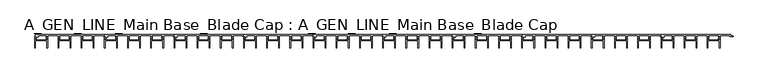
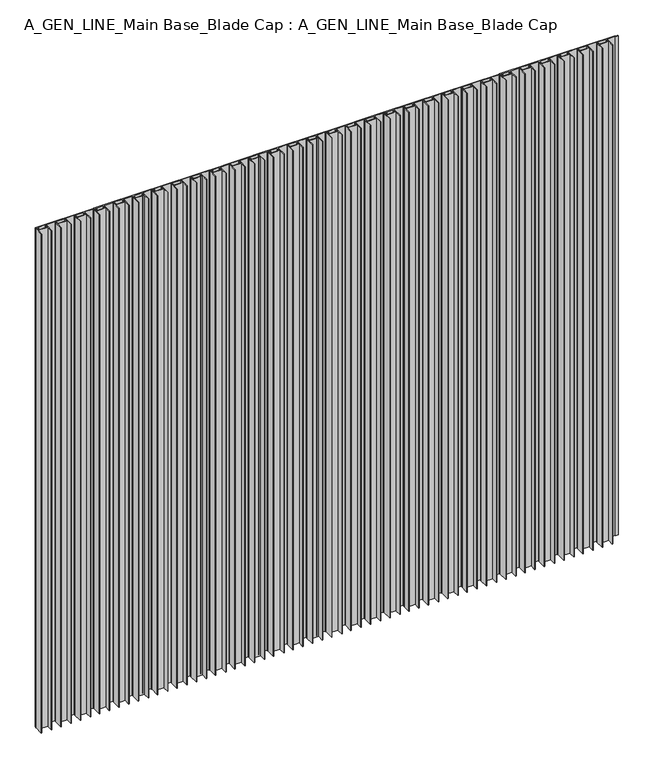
"""IFC4 building model written with IfcOpenShell, lengths in millimetres: proxy geometry, A_GEN_LINE_Main Base_Blade Cap : A_GEN_LINE_Main Base_Blade Cap."""

from ifc_helpers import new_model, si_unit, origin, origin_with_axes, place, context, project, spatial, polyline, outline, extrude, source, transform, mapped, element, save


def a_gen_line_main_base_blade_cap_a_gen_line_main_base_blade_9d8e08f2(model_context):
    return source(origin(), model_context, "Body", "SweptSolid", [
        extrude(outline(polyline([(1594.5994542, -32.0289818), (1594.5994542, -6.1), (1596.8241714, -6.1), (1596.8241714, -8.3419727), (1595.5177746, -8.7617834), (1595.5177746, -12.5079436), (1623.6811338, -12.5079436), (1623.6811338, -8.7374539), (1622.4504472, -8.3419727), (1622.4504472, -6.1), (1624.5994542, -6.1), (1624.5994542, -32.0289818), (1623.1994542, -32.0289818), (1623.1994542, -13.9079436), (1595.9994542, -13.9079436), (1595.9994542, -32.0289818), (1594.5994542, -32.0289818)])), origin_with_axes(), (0.0, 0.0, 1.0), 1500.0),
        extrude(outline(polyline([(1539.5989548, -32.0289818), (1539.5989548, -6.1), (1541.823672, -6.1), (1541.823672, -8.3419727), (1540.5172752, -8.7617834), (1540.5172752, -12.5079436), (1568.6806344, -12.5079436), (1568.6806344, -8.7374539), (1567.4499478, -8.3419727), (1567.4499478, -6.1), (1569.5989548, -6.1), (1569.5989548, -32.0289818), (1568.1989548, -32.0289818), (1568.1989548, -13.9079436), (1540.9989548, -13.9079436), (1540.9989548, -32.0289818), (1539.5989548, -32.0289818)])), origin_with_axes(), (0.0, 0.0, 1.0), 1500.0),
        extrude(outline(polyline([(1484.5984554, -32.0289818), (1484.5984554, -6.1), (1486.8231726, -6.1), (1486.8231726, -8.3419727), (1485.5167759, -8.7617834), (1485.5167759, -12.5079436), (1513.680135, -12.5079436), (1513.680135, -8.7374539), (1512.4494485, -8.3419727), (1512.4494485, -6.1), (1514.5984554, -6.1), (1514.5984554, -32.0289818), (1513.1984554, -32.0289818), (1513.1984554, -13.9079436), (1485.9984554, -13.9079436), (1485.9984554, -32.0289818), (1484.5984554, -32.0289818)])), origin_with_axes(), (0.0, 0.0, 1.0), 1500.0),
        extrude(outline(polyline([(1429.597956, -32.0289818), (1429.597956, -6.1), (1431.8226732, -6.1), (1431.8226732, -8.3419727), (1430.5162765, -8.7617834), (1430.5162765, -12.5079436), (1458.6796356, -12.5079436), (1458.6796356, -8.7374539), (1457.4489491, -8.3419727), (1457.4489491, -6.1), (1459.597956, -6.1), (1459.597956, -32.0289818), (1458.197956, -32.0289818), (1458.197956, -13.9079436), (1430.997956, -13.9079436), (1430.997956, -32.0289818), (1429.597956, -32.0289818)])), origin_with_axes(), (0.0, 0.0, 1.0), 1500.0),
        extrude(outline(polyline([(1374.5974566, -32.0289818), (1374.5974566, -6.1), (1376.8221738, -6.1), (1376.8221738, -8.3419727), (1375.5157771, -8.7617834), (1375.5157771, -12.5079436), (1403.6791362, -12.5079436), (1403.6791362, -8.7374539), (1402.4484497, -8.3419727), (1402.4484497, -6.1), (1404.5974566, -6.1), (1404.5974566, -32.0289818), (1403.1974566, -32.0289818), (1403.1974566, -13.9079436), (1375.9974566, -13.9079436), (1375.9974566, -32.0289818), (1374.5974566, -32.0289818)])), origin_with_axes(), (0.0, 0.0, 1.0), 1500.0),
        extrude(outline(polyline([(1319.5969572, -32.0289818), (1319.5969572, -6.1), (1321.8216744, -6.1), (1321.8216744, -8.3419727), (1320.5152777, -8.7617834), (1320.5152777, -12.5079436), (1348.6786368, -12.5079436), (1348.6786368, -8.7374539), (1347.4479503, -8.3419727), (1347.4479503, -6.1), (1349.5969572, -6.1), (1349.5969572, -32.0289818), (1348.1969572, -32.0289818), (1348.1969572, -13.9079436), (1320.9969572, -13.9079436), (1320.9969572, -32.0289818), (1319.5969572, -32.0289818)])), origin_with_axes(), (0.0, 0.0, 1.0), 1500.0),
        extrude(outline(polyline([(1264.5964579, -32.0289818), (1264.5964579, -6.1), (1266.821175, -6.1), (1266.821175, -8.3419727), (1265.5147783, -8.7617834), (1265.5147783, -12.5079436), (1293.6781374, -12.5079436), (1293.6781374, -8.7374539), (1292.4474509, -8.3419727), (1292.4474509, -6.1), (1294.5964579, -6.1), (1294.5964579, -32.0289818), (1293.1964579, -32.0289818), (1293.1964579, -13.9079436), (1265.9964579, -13.9079436), (1265.9964579, -32.0289818), (1264.5964579, -32.0289818)])), origin_with_axes(), (0.0, 0.0, 1.0), 1500.0),
        extrude(outline(polyline([(1209.5959585, -32.0289818), (1209.5959585, -6.1), (1211.8206756, -6.1), (1211.8206756, -8.3419727), (1210.5142789, -8.7617834), (1210.5142789, -12.5079436), (1238.677638, -12.5079436), (1238.677638, -8.7374539), (1237.4469515, -8.3419727), (1237.4469515, -6.1), (1239.5959585, -6.1), (1239.5959585, -32.0289818), (1238.1959585, -32.0289818), (1238.1959585, -13.9079436), (1210.9959585, -13.9079436), (1210.9959585, -32.0289818), (1209.5959585, -32.0289818)])), origin_with_axes(), (0.0, 0.0, 1.0), 1500.0),
        extrude(outline(polyline([(1154.5954591, -32.0289818), (1154.5954591, -6.1), (1156.8201762, -6.1), (1156.8201762, -8.3419727), (1155.5137795, -8.7617834), (1155.5137795, -12.5079436), (1183.6771386, -12.5079436), (1183.6771386, -8.7374539), (1182.4464521, -8.3419727), (1182.4464521, -6.1), (1184.5954591, -6.1), (1184.5954591, -32.0289818), (1183.1954591, -32.0289818), (1183.1954591, -13.9079436), (1155.9954591, -13.9079436), (1155.9954591, -32.0289818), (1154.5954591, -32.0289818)])), origin_with_axes(), (0.0, 0.0, 1.0), 1500.0),
        extrude(outline(polyline([(1485.0, 0.0), (1649.5761088, 0.0), (1649.5761088, -2.85), (1655.5761088, -2.85), (1655.5761088, -4.2), (1648.0577537, -4.2), (1648.0577537, -2.4), (1624.5881862, -2.4), (1624.5881862, -6.1021884), (1623.4732128, -6.1021884), (1621.884647, -8.4994005), (1623.1465809, -8.4994005), (1623.1465809, -10.4818695), (1620.9440548, -10.4818695), (1620.9773381, -5.5238337), (1623.0474159, -2.4), (1596.1309809, -2.4), (1598.2301021, -5.6343123), (1598.2301021, -10.4818695), (1596.027576, -10.4818695), (1596.027576, -8.4994005), (1597.2895099, -8.4994005), (1595.7009441, -6.1021884), (1594.5859707, -6.1021884), (1594.5859707, -2.4), (1569.5854713, -2.4), (1569.5854713, -6.1021884), (1568.4704978, -6.1021884), (1566.881932, -8.4994005), (1568.1438659, -8.4994005), (1568.1438659, -10.4818695), (1565.9413399, -10.4818695), (1565.9413399, -5.5740595), (1568.0447009, -2.4), (1541.1304815, -2.4), (1543.2296027, -5.6343123), (1543.2296027, -10.4818695), (1541.0270766, -10.4818695), (1541.0270766, -8.4994005), (1542.2890105, -8.4994005), (1540.7004447, -6.1021884), (1539.5854713, -6.1021884), (1539.5854713, -2.4), (1514.5849719, -2.4), (1514.5849719, -6.1021884), (1513.4699984, -6.1021884), (1511.8814326, -8.4994005), (1513.1433665, -8.4994005), (1513.1433665, -10.4818695), (1510.9408405, -10.4818695), (1510.9408405, -5.6343123), (1513.0399616, -2.4), (1492.2195527, -2.4), (1492.2195527, -6.1), (1488.2291033, -6.1), (1488.2291033, -10.4818695), (1486.0265772, -10.4818695), (1486.0265772, -8.4994005), (1487.2885111, -8.4994005), (1485.6999453, -6.1021884), (1484.6137598, -6.1021884), (1484.6137598, -4.9), (1491.0195527, -4.9), (1491.0195527, -2.7), (1485.0, -2.7), (1485.0, 0.0)])), origin_with_axes(), (0.0, 0.0, 1.0), 1500.0),
        extrude(outline(polyline([(1320.0, 0.0), (1484.5761088, 0.0), (1484.5761088, -2.85), (1490.5761088, -2.85), (1490.5761088, -4.2), (1483.0577537, -4.2), (1483.0577537, -2.4), (1459.5881862, -2.4), (1459.5881862, -6.1021884), (1458.4732128, -6.1021884), (1456.884647, -8.4994005), (1458.1465809, -8.4994005), (1458.1465809, -10.4818695), (1455.9440548, -10.4818695), (1455.9773381, -5.5238337), (1458.0474159, -2.4), (1431.1309809, -2.4), (1433.2301021, -5.6343123), (1433.2301021, -10.4818695), (1431.027576, -10.4818695), (1431.027576, -8.4994005), (1432.2895099, -8.4994005), (1430.7009441, -6.1021884), (1429.5859707, -6.1021884), (1429.5859707, -2.4), (1404.5854713, -2.4), (1404.5854713, -6.1021884), (1403.4704978, -6.1021884), (1401.881932, -8.4994005), (1403.1438659, -8.4994005), (1403.1438659, -10.4818695), (1400.9413399, -10.4818695), (1400.9413399, -5.5740595), (1403.0447009, -2.4), (1376.1304815, -2.4), (1378.2296027, -5.6343123), (1378.2296027, -10.4818695), (1376.0270766, -10.4818695), (1376.0270766, -8.4994005), (1377.2890105, -8.4994005), (1375.7004447, -6.1021884), (1374.5854713, -6.1021884), (1374.5854713, -2.4), (1349.5849719, -2.4), (1349.5849719, -6.1021884), (1348.4699984, -6.1021884), (1346.8814326, -8.4994005), (1348.1433665, -8.4994005), (1348.1433665, -10.4818695), (1345.9408405, -10.4818695), (1345.9408405, -5.6343123), (1348.0399616, -2.4), (1327.2195527, -2.4), (1327.2195527, -6.1), (1323.2291033, -6.1), (1323.2291033, -10.4818695), (1321.0265772, -10.4818695), (1321.0265772, -8.4994005), (1322.2885111, -8.4994005), (1320.6999453, -6.1021884), (1319.6137598, -6.1021884), (1319.6137598, -4.9), (1326.0195527, -4.9), (1326.0195527, -2.7), (1320.0, -2.7), (1320.0, 0.0)])), origin_with_axes(), (0.0, 0.0, 1.0), 1500.0),
        extrude(outline(polyline([(1155.0, 0.0), (1319.5761088, 0.0), (1319.5761088, -2.85), (1325.5761088, -2.85), (1325.5761088, -4.2), (1318.0577537, -4.2), (1318.0577537, -2.4), (1294.5881862, -2.4), (1294.5881862, -6.1021884), (1293.4732128, -6.1021884), (1291.884647, -8.4994005), (1293.1465809, -8.4994005), (1293.1465809, -10.4818695), (1290.9440548, -10.4818695), (1290.9773381, -5.5238337), (1293.0474159, -2.4), (1266.1309809, -2.4), (1268.2301021, -5.6343123), (1268.2301021, -10.4818695), (1266.027576, -10.4818695), (1266.027576, -8.4994005), (1267.2895099, -8.4994005), (1265.7009441, -6.1021884), (1264.5859707, -6.1021884), (1264.5859707, -2.4), (1239.5854713, -2.4), (1239.5854713, -6.1021884), (1238.4704978, -6.1021884), (1236.881932, -8.4994005), (1238.1438659, -8.4994005), (1238.1438659, -10.4818695), (1235.9413399, -10.4818695), (1235.9413399, -5.5740595), (1238.0447009, -2.4), (1211.1304815, -2.4), (1213.2296027, -5.6343123), (1213.2296027, -10.4818695), (1211.0270766, -10.4818695), (1211.0270766, -8.4994005), (1212.2890105, -8.4994005), (1210.7004447, -6.1021884), (1209.5854713, -6.1021884), (1209.5854713, -2.4), (1184.5849719, -2.4), (1184.5849719, -6.1021884), (1183.4699984, -6.1021884), (1181.8814326, -8.4994005), (1183.1433665, -8.4994005), (1183.1433665, -10.4818695), (1180.9408405, -10.4818695), (1180.9408405, -5.6343123), (1183.0399616, -2.4), (1162.2195527, -2.4), (1162.2195527, -6.1), (1158.2291033, -6.1), (1158.2291033, -10.4818695), (1156.0265772, -10.4818695), (1156.0265772, -8.4994005), (1157.2885111, -8.4994005), (1155.6999453, -6.1021884), (1154.6137598, -6.1021884), (1154.6137598, -4.9), (1161.0195527, -4.9), (1161.0195527, -2.7), (1155.0, -2.7), (1155.0, 0.0)])), origin_with_axes(), (0.0, 0.0, 1.0), 1500.0),
        extrude(outline(polyline([(1099.5949597, -32.0289818), (1099.5949597, -6.1), (1101.8196768, -6.1), (1101.8196768, -8.3419727), (1100.5132801, -8.7617834), (1100.5132801, -12.5079436), (1128.6766392, -12.5079436), (1128.6766392, -8.7374539), (1127.4459527, -8.3419727), (1127.4459527, -6.1), (1129.5949597, -6.1), (1129.5949597, -32.0289818), (1128.1949597, -32.0289818), (1128.1949597, -13.9079436), (1100.9949597, -13.9079436), (1100.9949597, -32.0289818), (1099.5949597, -32.0289818)])), origin_with_axes(), (0.0, 0.0, 1.0), 1500.0),
        extrude(outline(polyline([(1044.5944603, -32.0289818), (1044.5944603, -6.1), (1046.8191775, -6.1), (1046.8191775, -8.3419727), (1045.5127807, -8.7617834), (1045.5127807, -12.5079436), (1073.6761399, -12.5079436), (1073.6761399, -8.7374539), (1072.4454533, -8.3419727), (1072.4454533, -6.1), (1074.5944603, -6.1), (1074.5944603, -32.0289818), (1073.1944603, -32.0289818), (1073.1944603, -13.9079436), (1045.9944603, -13.9079436), (1045.9944603, -32.0289818), (1044.5944603, -32.0289818)])), origin_with_axes(), (0.0, 0.0, 1.0), 1500.0),
        extrude(outline(polyline([(989.5939609, -32.0289818), (989.5939609, -6.1), (991.8186781, -6.1), (991.8186781, -8.3419727), (990.5122813, -8.7617834), (990.5122813, -12.5079436), (1018.6756405, -12.5079436), (1018.6756405, -8.7374539), (1017.4449539, -8.3419727), (1017.4449539, -6.1), (1019.5939609, -6.1), (1019.5939609, -32.0289818), (1018.1939609, -32.0289818), (1018.1939609, -13.9079436), (990.9939609, -13.9079436), (990.9939609, -32.0289818), (989.5939609, -32.0289818)])), origin_with_axes(), (0.0, 0.0, 1.0), 1500.0),
        extrude(outline(polyline([(934.5934615, -32.0289818), (934.5934615, -6.1), (936.8181787, -6.1), (936.8181787, -8.3419727), (935.5117819, -8.7617834), (935.5117819, -12.5079436), (963.6751411, -12.5079436), (963.6751411, -8.7374539), (962.4444546, -8.3419727), (962.4444546, -6.1), (964.5934615, -6.1), (964.5934615, -32.0289818), (963.1934615, -32.0289818), (963.1934615, -13.9079436), (935.9934615, -13.9079436), (935.9934615, -32.0289818), (934.5934615, -32.0289818)])), origin_with_axes(), (0.0, 0.0, 1.0), 1500.0),
        extrude(outline(polyline([(879.5929621, -32.0289818), (879.5929621, -6.1), (881.8176793, -6.1), (881.8176793, -8.3419727), (880.5112826, -8.7617834), (880.5112826, -12.5079436), (908.6746417, -12.5079436), (908.6746417, -8.7374539), (907.4439552, -8.3419727), (907.4439552, -6.1), (909.5929621, -6.1), (909.5929621, -32.0289818), (908.1929621, -32.0289818), (908.1929621, -13.9079436), (880.9929621, -13.9079436), (880.9929621, -32.0289818), (879.5929621, -32.0289818)])), origin_with_axes(), (0.0, 0.0, 1.0), 1500.0),
        extrude(outline(polyline([(824.5924627, -32.0289818), (824.5924627, -6.1), (826.8171799, -6.1), (826.8171799, -8.3419727), (825.5107832, -8.7617834), (825.5107832, -12.5079436), (853.6741423, -12.5079436), (853.6741423, -8.7374539), (852.4434558, -8.3419727), (852.4434558, -6.1), (854.5924627, -6.1), (854.5924627, -32.0289818), (853.1924627, -32.0289818), (853.1924627, -13.9079436), (825.9924627, -13.9079436), (825.9924627, -32.0289818), (824.5924627, -32.0289818)])), origin_with_axes(), (0.0, 0.0, 1.0), 1500.0),
        extrude(outline(polyline([(769.5919633, -32.0289818), (769.5919633, -6.1), (771.8166805, -6.1), (771.8166805, -8.3419727), (770.5102838, -8.7617834), (770.5102838, -12.5079436), (798.6736429, -12.5079436), (798.6736429, -8.7374539), (797.4429564, -8.3419727), (797.4429564, -6.1), (799.5919633, -6.1), (799.5919633, -32.0289818), (798.1919633, -32.0289818), (798.1919633, -13.9079436), (770.9919633, -13.9079436), (770.9919633, -32.0289818), (769.5919633, -32.0289818)])), origin_with_axes(), (0.0, 0.0, 1.0), 1500.0),
        extrude(outline(polyline([(714.5914639, -32.0289818), (714.5914639, -6.1), (716.8161811, -6.1), (716.8161811, -8.3419727), (715.5097844, -8.7617834), (715.5097844, -12.5079436), (743.6731435, -12.5079436), (743.6731435, -8.7374539), (742.442457, -8.3419727), (742.442457, -6.1), (744.5914639, -6.1), (744.5914639, -32.0289818), (743.1914639, -32.0289818), (743.1914639, -13.9079436), (715.9914639, -13.9079436), (715.9914639, -32.0289818), (714.5914639, -32.0289818)])), origin_with_axes(), (0.0, 0.0, 1.0), 1500.0),
        extrude(outline(polyline([(659.5909646, -32.0289818), (659.5909646, -6.1), (661.8156817, -6.1), (661.8156817, -8.3419727), (660.509285, -8.7617834), (660.509285, -12.5079436), (688.6726441, -12.5079436), (688.6726441, -8.7374539), (687.4419576, -8.3419727), (687.4419576, -6.1), (689.5909646, -6.1), (689.5909646, -32.0289818), (688.1909646, -32.0289818), (688.1909646, -13.9079436), (660.9909646, -13.9079436), (660.9909646, -32.0289818), (659.5909646, -32.0289818)])), origin_with_axes(), (0.0, 0.0, 1.0), 1500.0),
        extrude(outline(polyline([(604.5904652, -32.0289818), (604.5904652, -6.1), (606.8151823, -6.1), (606.8151823, -8.3419727), (605.5087856, -8.7617834), (605.5087856, -12.5079436), (633.6721447, -12.5079436), (633.6721447, -8.7374539), (632.4414582, -8.3419727), (632.4414582, -6.1), (634.5904652, -6.1), (634.5904652, -32.0289818), (633.1904652, -32.0289818), (633.1904652, -13.9079436), (605.9904652, -13.9079436), (605.9904652, -32.0289818), (604.5904652, -32.0289818)])), origin_with_axes(), (0.0, 0.0, 1.0), 1500.0),
        extrude(outline(polyline([(549.5899658, -32.0289818), (549.5899658, -6.1), (551.8146829, -6.1), (551.8146829, -8.3419727), (550.5082862, -8.7617834), (550.5082862, -12.5079436), (578.6716453, -12.5079436), (578.6716453, -8.7374539), (577.4409588, -8.3419727), (577.4409588, -6.1), (579.5899658, -6.1), (579.5899658, -32.0289818), (578.1899658, -32.0289818), (578.1899658, -13.9079436), (550.9899658, -13.9079436), (550.9899658, -32.0289818), (549.5899658, -32.0289818)])), origin_with_axes(), (0.0, 0.0, 1.0), 1500.0),
        extrude(outline(polyline([(494.5894664, -32.0289818), (494.5894664, -6.1), (496.8141835, -6.1), (496.8141835, -8.3419727), (495.5077868, -8.7617834), (495.5077868, -12.5079436), (523.671146, -12.5079436), (523.671146, -8.7374539), (522.4404594, -8.3419727), (522.4404594, -6.1), (524.5894664, -6.1), (524.5894664, -32.0289818), (523.1894664, -32.0289818), (523.1894664, -13.9079436), (495.9894664, -13.9079436), (495.9894664, -32.0289818), (494.5894664, -32.0289818)])), origin_with_axes(), (0.0, 0.0, 1.0), 1500.0),
        extrude(outline(polyline([(439.588967, -32.0289818), (439.588967, -6.1), (441.8136842, -6.1), (441.8136842, -8.3419727), (440.5072874, -8.7617834), (440.5072874, -12.5079436), (468.6706466, -12.5079436), (468.6706466, -8.7374539), (467.43996, -8.3419727), (467.43996, -6.1), (469.588967, -6.1), (469.588967, -32.0289818), (468.188967, -32.0289818), (468.188967, -13.9079436), (440.988967, -13.9079436), (440.988967, -32.0289818), (439.588967, -32.0289818)])), origin_with_axes(), (0.0, 0.0, 1.0), 1500.0),
        extrude(outline(polyline([(384.5884676, -32.0289818), (384.5884676, -6.1), (386.8131848, -6.1), (386.8131848, -8.3419727), (385.506788, -8.7617834), (385.506788, -12.5079436), (413.6701472, -12.5079436), (413.6701472, -8.7374539), (412.4394606, -8.3419727), (412.4394606, -6.1), (414.5884676, -6.1), (414.5884676, -32.0289818), (413.1884676, -32.0289818), (413.1884676, -13.9079436), (385.9884676, -13.9079436), (385.9884676, -32.0289818), (384.5884676, -32.0289818)])), origin_with_axes(), (0.0, 0.0, 1.0), 1500.0),
        extrude(outline(polyline([(329.5879682, -32.0289818), (329.5879682, -6.1), (331.8126854, -6.1), (331.8126854, -8.3419727), (330.5062887, -8.7617834), (330.5062887, -12.5079436), (358.6696478, -12.5079436), (358.6696478, -8.7374539), (357.4389613, -8.3419727), (357.4389613, -6.1), (359.5879682, -6.1), (359.5879682, -32.0289818), (358.1879682, -32.0289818), (358.1879682, -13.9079436), (330.9879682, -13.9079436), (330.9879682, -32.0289818), (329.5879682, -32.0289818)])), origin_with_axes(), (0.0, 0.0, 1.0), 1500.0),
        extrude(outline(polyline([(274.5874688, -32.0289818), (274.5874688, -6.1), (276.812186, -6.1), (276.812186, -8.3419727), (275.5057893, -8.7617834), (275.5057893, -12.5079436), (303.6691484, -12.5079436), (303.6691484, -8.7374539), (302.4384619, -8.3419727), (302.4384619, -6.1), (304.5874688, -6.1), (304.5874688, -32.0289818), (303.1874688, -32.0289818), (303.1874688, -13.9079436), (275.9874688, -13.9079436), (275.9874688, -32.0289818), (274.5874688, -32.0289818)])), origin_with_axes(), (0.0, 0.0, 1.0), 1500.0),
        extrude(outline(polyline([(219.5869694, -32.0289818), (219.5869694, -6.1), (221.8116866, -6.1), (221.8116866, -8.3419727), (220.5052899, -8.7617834), (220.5052899, -12.5079436), (248.668649, -12.5079436), (248.668649, -8.7374539), (247.4379625, -8.3419727), (247.4379625, -6.1), (249.5869694, -6.1), (249.5869694, -32.0289818), (248.1869694, -32.0289818), (248.1869694, -13.9079436), (220.9869694, -13.9079436), (220.9869694, -32.0289818), (219.5869694, -32.0289818)])), origin_with_axes(), (0.0, 0.0, 1.0), 1500.0),
        extrude(outline(polyline([(164.58647, -32.0289818), (164.58647, -6.1), (166.8111872, -6.1), (166.8111872, -8.3419727), (165.5047905, -8.7617834), (165.5047905, -12.5079436), (193.6681496, -12.5079436), (193.6681496, -8.7374539), (192.4374631, -8.3419727), (192.4374631, -6.1), (194.58647, -6.1), (194.58647, -32.0289818), (193.18647, -32.0289818), (193.18647, -13.9079436), (165.98647, -13.9079436), (165.98647, -32.0289818), (164.58647, -32.0289818)])), origin_with_axes(), (0.0, 0.0, 1.0), 1500.0),
        extrude(outline(polyline([(109.5859707, -32.0289818), (109.5859707, -6.1), (111.8106878, -6.1), (111.8106878, -8.3419727), (110.5042911, -8.7617834), (110.5042911, -12.5079436), (138.6676502, -12.5079436), (138.6676502, -8.7374539), (137.4369637, -8.3419727), (137.4369637, -6.1), (139.5859707, -6.1), (139.5859707, -32.0289818), (138.1859707, -32.0289818), (138.1859707, -13.9079436), (110.9859707, -13.9079436), (110.9859707, -32.0289818), (109.5859707, -32.0289818)])), origin_with_axes(), (0.0, 0.0, 1.0), 1500.0),
        extrude(outline(polyline([(54.5854713, -32.0289818), (54.5854713, -6.1), (56.8101884, -6.1), (56.8101884, -8.3419727), (55.5037917, -8.7617834), (55.5037917, -12.5079436), (83.6671508, -12.5079436), (83.6671508, -8.7374539), (82.4364643, -8.3419727), (82.4364643, -6.1), (84.5854713, -6.1), (84.5854713, -32.0289818), (83.1854713, -32.0289818), (83.1854713, -13.9079436), (55.9854713, -13.9079436), (55.9854713, -32.0289818), (54.5854713, -32.0289818)])), origin_with_axes(), (0.0, 0.0, 1.0), 1500.0),
        extrude(outline(polyline([(-0.4150281, -32.0289818), (-0.4150281, -6.1), (1.809689, -6.1), (1.809689, -8.3419727), (0.5032923, -8.7617834), (0.5032923, -12.5079436), (28.6666514, -12.5079436), (28.6666514, -8.7374539), (27.4359649, -8.3419727), (27.4359649, -6.1), (29.5849719, -6.1), (29.5849719, -32.0289818), (28.1849719, -32.0289818), (28.1849719, -13.9079436), (0.9849719, -13.9079436), (0.9849719, -32.0289818), (-0.4150281, -32.0289818)])), origin_with_axes(), (0.0, 0.0, 1.0), 1500.0),
        extrude(outline(polyline([(990.0, 0.0), (1154.5761088, 0.0), (1154.5761088, -2.85), (1160.5761088, -2.85), (1160.5761088, -4.2), (1153.0577537, -4.2), (1153.0577537, -2.4), (1129.5881862, -2.4), (1129.5881862, -6.1021884), (1128.4732128, -6.1021884), (1126.884647, -8.4994005), (1128.1465809, -8.4994005), (1128.1465809, -10.4818695), (1125.9440548, -10.4818695), (1125.9773381, -5.5238337), (1128.0474159, -2.4), (1101.1309809, -2.4), (1103.2301021, -5.6343123), (1103.2301021, -10.4818695), (1101.027576, -10.4818695), (1101.027576, -8.4994005), (1102.2895099, -8.4994005), (1100.7009441, -6.1021884), (1099.5859707, -6.1021884), (1099.5859707, -2.4), (1074.5854713, -2.4), (1074.5854713, -6.1021884), (1073.4704978, -6.1021884), (1071.881932, -8.4994005), (1073.1438659, -8.4994005), (1073.1438659, -10.4818695), (1070.9413399, -10.4818695), (1070.9413399, -5.5740595), (1073.0447009, -2.4), (1046.1304815, -2.4), (1048.2296027, -5.6343123), (1048.2296027, -10.4818695), (1046.0270766, -10.4818695), (1046.0270766, -8.4994005), (1047.2890105, -8.4994005), (1045.7004447, -6.1021884), (1044.5854713, -6.1021884), (1044.5854713, -2.4), (1019.5849719, -2.4), (1019.5849719, -6.1021884), (1018.4699984, -6.1021884), (1016.8814326, -8.4994005), (1018.1433665, -8.4994005), (1018.1433665, -10.4818695), (1015.9408405, -10.4818695), (1015.9408405, -5.6343123), (1018.0399616, -2.4), (997.2195527, -2.4), (997.2195527, -6.1), (993.2291033, -6.1), (993.2291033, -10.4818695), (991.0265772, -10.4818695), (991.0265772, -8.4994005), (992.2885111, -8.4994005), (990.6999453, -6.1021884), (989.6137598, -6.1021884), (989.6137598, -4.9), (996.0195527, -4.9), (996.0195527, -2.7), (990.0, -2.7), (990.0, 0.0)])), origin_with_axes(), (0.0, 0.0, 1.0), 1500.0),
        extrude(outline(polyline([(825.0, 0.0), (989.5761088, 0.0), (989.5761088, -2.85), (995.5761088, -2.85), (995.5761088, -4.2), (988.0577537, -4.2), (988.0577537, -2.4), (964.5881862, -2.4), (964.5881862, -6.1021884), (963.4732128, -6.1021884), (961.884647, -8.4994005), (963.1465809, -8.4994005), (963.1465809, -10.4818695), (960.9440548, -10.4818695), (960.9773381, -5.5238337), (963.0474159, -2.4), (936.1309809, -2.4), (938.2301021, -5.6343123), (938.2301021, -10.4818695), (936.027576, -10.4818695), (936.027576, -8.4994005), (937.2895099, -8.4994005), (935.7009441, -6.1021884), (934.5859707, -6.1021884), (934.5859707, -2.4), (909.5854713, -2.4), (909.5854713, -6.1021884), (908.4704978, -6.1021884), (906.881932, -8.4994005), (908.1438659, -8.4994005), (908.1438659, -10.4818695), (905.9413399, -10.4818695), (905.9413399, -5.5740595), (908.0447009, -2.4), (881.1304815, -2.4), (883.2296027, -5.6343123), (883.2296027, -10.4818695), (881.0270766, -10.4818695), (881.0270766, -8.4994005), (882.2890105, -8.4994005), (880.7004447, -6.1021884), (879.5854713, -6.1021884), (879.5854713, -2.4), (854.5849719, -2.4), (854.5849719, -6.1021884), (853.4699984, -6.1021884), (851.8814326, -8.4994005), (853.1433665, -8.4994005), (853.1433665, -10.4818695), (850.9408405, -10.4818695), (850.9408405, -5.6343123), (853.0399616, -2.4), (832.2195527, -2.4), (832.2195527, -6.1), (828.2291033, -6.1), (828.2291033, -10.4818695), (826.0265772, -10.4818695), (826.0265772, -8.4994005), (827.2885111, -8.4994005), (825.6999453, -6.1021884), (824.6137598, -6.1021884), (824.6137598, -4.9), (831.0195527, -4.9), (831.0195527, -2.7), (825.0, -2.7), (825.0, 0.0)])), origin_with_axes(), (0.0, 0.0, 1.0), 1500.0),
        extrude(outline(polyline([(660.0, 0.0), (824.5761088, 0.0), (824.5761088, -2.85), (830.5761088, -2.85), (830.5761088, -4.2), (823.0577537, -4.2), (823.0577537, -2.4), (799.5881862, -2.4), (799.5881862, -6.1021884), (798.4732128, -6.1021884), (796.884647, -8.4994005), (798.1465809, -8.4994005), (798.1465809, -10.4818695), (795.9440548, -10.4818695), (795.9773381, -5.5238337), (798.0474159, -2.4), (771.1309809, -2.4), (773.2301021, -5.6343123), (773.2301021, -10.4818695), (771.027576, -10.4818695), (771.027576, -8.4994005), (772.2895099, -8.4994005), (770.7009441, -6.1021884), (769.5859707, -6.1021884), (769.5859707, -2.4), (744.5854713, -2.4), (744.5854713, -6.1021884), (743.4704978, -6.1021884), (741.881932, -8.4994005), (743.1438659, -8.4994005), (743.1438659, -10.4818695), (740.9413399, -10.4818695), (740.9413399, -5.5740595), (743.0447009, -2.4), (716.1304815, -2.4), (718.2296027, -5.6343123), (718.2296027, -10.4818695), (716.0270766, -10.4818695), (716.0270766, -8.4994005), (717.2890105, -8.4994005), (715.7004447, -6.1021884), (714.5854713, -6.1021884), (714.5854713, -2.4), (689.5849719, -2.4), (689.5849719, -6.1021884), (688.4699984, -6.1021884), (686.8814326, -8.4994005), (688.1433665, -8.4994005), (688.1433665, -10.4818695), (685.9408405, -10.4818695), (685.9408405, -5.6343123), (688.0399616, -2.4), (667.2195527, -2.4), (667.2195527, -6.1), (663.2291033, -6.1), (663.2291033, -10.4818695), (661.0265772, -10.4818695), (661.0265772, -8.4994005), (662.2885111, -8.4994005), (660.6999453, -6.1021884), (659.6137598, -6.1021884), (659.6137598, -4.9), (666.0195527, -4.9), (666.0195527, -2.7), (660.0, -2.7), (660.0, 0.0)])), origin_with_axes(), (0.0, 0.0, 1.0), 1500.0),
        extrude(outline(polyline([(495.0, 0.0), (659.5761088, 0.0), (659.5761088, -2.85), (665.5761088, -2.85), (665.5761088, -4.2), (658.0577537, -4.2), (658.0577537, -2.4), (634.5881862, -2.4), (634.5881862, -6.1021884), (633.4732128, -6.1021884), (631.884647, -8.4994005), (633.1465809, -8.4994005), (633.1465809, -10.4818695), (630.9440548, -10.4818695), (630.9773381, -5.5238337), (633.0474159, -2.4), (606.1309809, -2.4), (608.2301021, -5.6343123), (608.2301021, -10.4818695), (606.027576, -10.4818695), (606.027576, -8.4994005), (607.2895099, -8.4994005), (605.7009441, -6.1021884), (604.5859707, -6.1021884), (604.5859707, -2.4), (579.5854713, -2.4), (579.5854713, -6.1021884), (578.4704978, -6.1021884), (576.881932, -8.4994005), (578.1438659, -8.4994005), (578.1438659, -10.4818695), (575.9413399, -10.4818695), (575.9413399, -5.5740595), (578.0447009, -2.4), (551.1304815, -2.4), (553.2296027, -5.6343123), (553.2296027, -10.4818695), (551.0270766, -10.4818695), (551.0270766, -8.4994005), (552.2890105, -8.4994005), (550.7004447, -6.1021884), (549.5854713, -6.1021884), (549.5854713, -2.4), (524.5849719, -2.4), (524.5849719, -6.1021884), (523.4699984, -6.1021884), (521.8814326, -8.4994005), (523.1433665, -8.4994005), (523.1433665, -10.4818695), (520.9408405, -10.4818695), (520.9408405, -5.6343123), (523.0399616, -2.4), (502.2195527, -2.4), (502.2195527, -6.1), (498.2291033, -6.1), (498.2291033, -10.4818695), (496.0265772, -10.4818695), (496.0265772, -8.4994005), (497.2885111, -8.4994005), (495.6999453, -6.1021884), (494.6137598, -6.1021884), (494.6137598, -4.9), (501.0195527, -4.9), (501.0195527, -2.7), (495.0, -2.7), (495.0, 0.0)])), origin_with_axes(), (0.0, 0.0, 1.0), 1500.0),
        extrude(outline(polyline([(330.0, 0.0), (494.5761088, 0.0), (494.5761088, -2.85), (500.5761088, -2.85), (500.5761088, -4.2), (493.0577537, -4.2), (493.0577537, -2.4), (469.5881862, -2.4), (469.5881862, -6.1021884), (468.4732128, -6.1021884), (466.884647, -8.4994005), (468.1465809, -8.4994005), (468.1465809, -10.4818695), (465.9440548, -10.4818695), (465.9773381, -5.5238337), (468.0474159, -2.4), (441.1309809, -2.4), (443.2301021, -5.6343123), (443.2301021, -10.4818695), (441.027576, -10.4818695), (441.027576, -8.4994005), (442.2895099, -8.4994005), (440.7009441, -6.1021884), (439.5859707, -6.1021884), (439.5859707, -2.4), (414.5854713, -2.4), (414.5854713, -6.1021884), (413.4704978, -6.1021884), (411.881932, -8.4994005), (413.1438659, -8.4994005), (413.1438659, -10.4818695), (410.9413399, -10.4818695), (410.9413399, -5.5740595), (413.0447009, -2.4), (386.1304815, -2.4), (388.2296027, -5.6343123), (388.2296027, -10.4818695), (386.0270766, -10.4818695), (386.0270766, -8.4994005), (387.2890105, -8.4994005), (385.7004447, -6.1021884), (384.5854713, -6.1021884), (384.5854713, -2.4), (359.5849719, -2.4), (359.5849719, -6.1021884), (358.4699984, -6.1021884), (356.8814326, -8.4994005), (358.1433665, -8.4994005), (358.1433665, -10.4818695), (355.9408405, -10.4818695), (355.9408405, -5.6343123), (358.0399616, -2.4), (337.2195527, -2.4), (337.2195527, -6.1), (333.2291033, -6.1), (333.2291033, -10.4818695), (331.0265772, -10.4818695), (331.0265772, -8.4994005), (332.2885111, -8.4994005), (330.6999453, -6.1021884), (329.6137598, -6.1021884), (329.6137598, -4.9), (336.0195527, -4.9), (336.0195527, -2.7), (330.0, -2.7), (330.0, 0.0)])), origin_with_axes(), (0.0, 0.0, 1.0), 1500.0),
        extrude(outline(polyline([(165.0, 0.0), (329.5761088, 0.0), (329.5761088, -2.85), (335.5761088, -2.85), (335.5761088, -4.2), (328.0577537, -4.2), (328.0577537, -2.4), (304.5881862, -2.4), (304.5881862, -6.1021884), (303.4732128, -6.1021884), (301.884647, -8.4994005), (303.1465809, -8.4994005), (303.1465809, -10.4818695), (300.9440548, -10.4818695), (300.9773381, -5.5238337), (303.0474159, -2.4), (276.1309809, -2.4), (278.2301021, -5.6343123), (278.2301021, -10.4818695), (276.027576, -10.4818695), (276.027576, -8.4994005), (277.2895099, -8.4994005), (275.7009441, -6.1021884), (274.5859707, -6.1021884), (274.5859707, -2.4), (249.5854713, -2.4), (249.5854713, -6.1021884), (248.4704978, -6.1021884), (246.881932, -8.4994005), (248.1438659, -8.4994005), (248.1438659, -10.4818695), (245.9413399, -10.4818695), (245.9413399, -5.5740595), (248.0447009, -2.4), (221.1304815, -2.4), (223.2296027, -5.6343123), (223.2296027, -10.4818695), (221.0270766, -10.4818695), (221.0270766, -8.4994005), (222.2890105, -8.4994005), (220.7004447, -6.1021884), (219.5854713, -6.1021884), (219.5854713, -2.4), (194.5849719, -2.4), (194.5849719, -6.1021884), (193.4699984, -6.1021884), (191.8814326, -8.4994005), (193.1433665, -8.4994005), (193.1433665, -10.4818695), (190.9408405, -10.4818695), (190.9408405, -5.6343123), (193.0399616, -2.4), (172.2195527, -2.4), (172.2195527, -6.1), (168.2291033, -6.1), (168.2291033, -10.4818695), (166.0265772, -10.4818695), (166.0265772, -8.4994005), (167.2885111, -8.4994005), (165.6999453, -6.1021884), (164.6137598, -6.1021884), (164.6137598, -4.9), (171.0195527, -4.9), (171.0195527, -2.7), (165.0, -2.7), (165.0, 0.0)])), origin_with_axes(), (0.0, 0.0, 1.0), 1500.0),
        extrude(outline(polyline([(0.0, 0.0), (164.5761088, 0.0), (164.5761088, -2.85), (170.5761088, -2.85), (170.5761088, -4.2), (163.0577537, -4.2), (163.0577537, -2.4), (139.5881862, -2.4), (139.5881862, -6.1021884), (138.4732128, -6.1021884), (136.884647, -8.4994005), (138.1465809, -8.4994005), (138.1465809, -10.4818695), (135.9440548, -10.4818695), (135.9773381, -5.5238337), (138.0474159, -2.4), (111.1309809, -2.4), (113.2301021, -5.6343123), (113.2301021, -10.4818695), (111.027576, -10.4818695), (111.027576, -8.4994005), (112.2895099, -8.4994005), (110.7009441, -6.1021884), (109.5859707, -6.1021884), (109.5859707, -2.4), (84.5854713, -2.4), (84.5854713, -6.1021884), (83.4704978, -6.1021884), (81.881932, -8.4994005), (83.1438659, -8.4994005), (83.1438659, -10.4818695), (80.9413399, -10.4818695), (80.9413399, -5.5740595), (83.0447009, -2.4), (56.1304815, -2.4), (58.2296027, -5.6343123), (58.2296027, -10.4818695), (56.0270766, -10.4818695), (56.0270766, -8.4994005), (57.2890105, -8.4994005), (55.7004447, -6.1021884), (54.5854713, -6.1021884), (54.5854713, -2.4), (29.5849719, -2.4), (29.5849719, -6.1021884), (28.4699984, -6.1021884), (26.8814326, -8.4994005), (28.1433665, -8.4994005), (28.1433665, -10.4818695), (25.9408405, -10.4818695), (25.9408405, -5.6343123), (28.0399616, -2.4), (7.2195527, -2.4), (7.2195527, -6.1), (3.2291033, -6.1), (3.2291033, -10.4818695), (1.0265772, -10.4818695), (1.0265772, -8.4994005), (2.2885111, -8.4994005), (0.6999453, -6.1021884), (-0.3862402, -6.1021884), (-0.3862402, -4.9), (6.0195527, -4.9), (6.0195527, -2.7), (0.0, -2.7), (0.0, 0.0)])), origin_with_axes(), (0.0, 0.0, 1.0), 1500.0),
    ])


if __name__ == "__main__":
    model = new_model("IFC4")
    model_context = context("Model", 3, world=origin())
    ifc_project = project(units=[si_unit("LENGTHUNIT", "METRE", prefix="MILLI")], contexts=[model_context])
    site = spatial("IfcSite", under=ifc_project)
    building = spatial("IfcBuilding", under=site)
    placement = place(None, origin())
    a_gen_line_main_base_blade_cap_a_gen_line_main_base_blade_shape = a_gen_line_main_base_blade_cap_a_gen_line_main_base_blade_9d8e08f2(model_context)
    element("IfcBuildingElementProxy", 1, Name="A_GEN_LINE_Main Base_Blade Cap : A_GEN_LINE_Main Base_Blade Cap", ObjectType="A_GEN_LINE_Main Base_Blade Cap : A_GEN_LINE_Main Base_Blade Cap", at=placement, inside=building, context=model_context, shape_type="MappedRepresentation", body=[
        mapped(a_gen_line_main_base_blade_cap_a_gen_line_main_base_blade_shape, transform((0.0, 0.0, 0.0), x_axis=(1.0, 0.0, 0.0), y_axis=(0.0, 1.0, 0.0), z_axis=(0.0, 0.0, 1.0))),
    ])
    save(model, "model.ifc")
